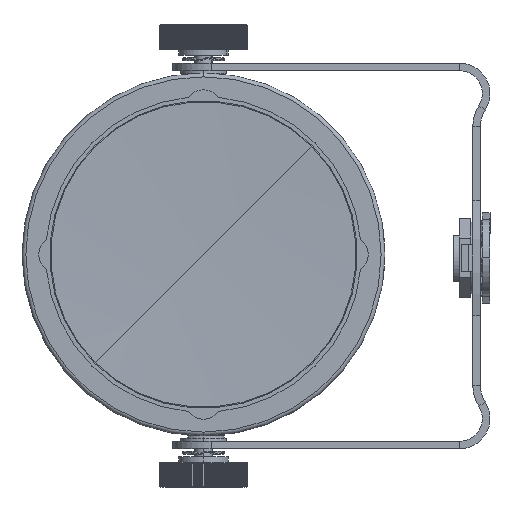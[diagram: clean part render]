
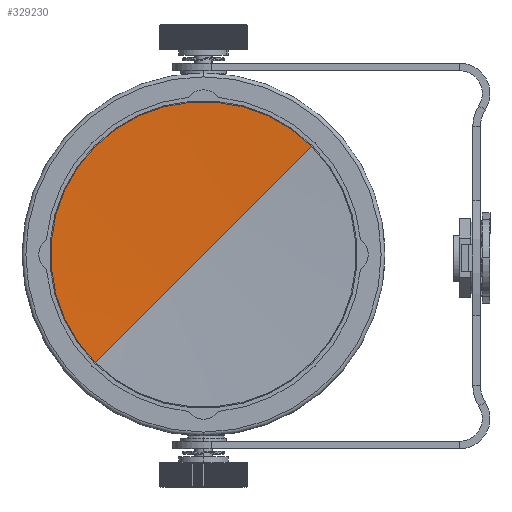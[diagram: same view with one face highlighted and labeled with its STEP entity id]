
A CAD part, left-side view. The second image highlights one B-rep face of the part: STEP entity #329230.
In plain terms, the highlighted spherical face has radius 1000 mm.
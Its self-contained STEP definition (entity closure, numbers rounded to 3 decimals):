
#2247 = CARTESIAN_POINT ( 'NONE',  ( 0., 0., 40. ) ) ;
#3554 = ORIENTED_EDGE ( 'NONE', *, *, #286422, .F. ) ;
#4528 = DIRECTION ( 'NONE',  ( 0., 1., 0. ) ) ;
#30416 = VERTEX_POINT ( 'NONE', #46099 ) ;
#31880 = VERTEX_POINT ( 'NONE', #303824 ) ;
#44462 = EDGE_LOOP ( 'NONE', ( #3554, #47666, #323709 ) ) ;
#46099 = CARTESIAN_POINT ( 'NONE',  ( 0.8, 0., 0. ) ) ;
#47666 = ORIENTED_EDGE ( 'NONE', *, *, #135412, .T. ) ;
#74415 = CARTESIAN_POINT ( 'NONE',  ( -999.2, 0., 0. ) ) ;
#76145 = AXIS2_PLACEMENT_3D ( 'NONE', #95492, #177127, #98894 ) ;
#76389 = VERTEX_POINT ( 'NONE', #2247 ) ;
#88589 = FACE_OUTER_BOUND ( 'NONE', #44462, .T. ) ;
#95492 = CARTESIAN_POINT ( 'NONE',  ( -999.2, 0., 0. ) ) ;
#98894 = DIRECTION ( 'NONE',  ( 0., 0., -1. ) ) ;
#100860 = DIRECTION ( 'NONE',  ( 0., 0., -1. ) ) ;
#117871 = EDGE_CURVE ( 'NONE', #76389, #31880, #171665, .T. ) ;
#135412 = EDGE_CURVE ( 'NONE', #30416, #76389, #163697, .T. ) ;
#150050 = CIRCLE ( 'NONE', #214031, 1000. ) ;
#155677 = DIRECTION ( 'NONE',  ( -1., 0., 0. ) ) ;
#162070 = CARTESIAN_POINT ( 'NONE',  ( -999.2, 0., 0. ) ) ;
#163697 = CIRCLE ( 'NONE', #276595, 1000. ) ;
#171665 = CIRCLE ( 'NONE', #180585, 40. ) ;
#177127 = DIRECTION ( 'NONE',  ( 0., -1., 0. ) ) ;
#180585 = AXIS2_PLACEMENT_3D ( 'NONE', #313323, #155677, #339726 ) ;
#188582 = DIRECTION ( 'NONE',  ( 0., 0., 1. ) ) ;
#214031 = AXIS2_PLACEMENT_3D ( 'NONE', #162070, #4528, #188582 ) ;
#258533 = DIRECTION ( 'NONE',  ( 0., -1., 0. ) ) ;
#276595 = AXIS2_PLACEMENT_3D ( 'NONE', #74415, #258533, #100860 ) ;
#286422 = EDGE_CURVE ( 'NONE', #30416, #31880, #150050, .T. ) ;
#290180 = SPHERICAL_SURFACE ( 'NONE', #76145, 1000. ) ;
#303824 = CARTESIAN_POINT ( 'NONE',  ( 0., 0., -40. ) ) ;
#313323 = CARTESIAN_POINT ( 'NONE',  ( 0., 0., 0. ) ) ;
#323709 = ORIENTED_EDGE ( 'NONE', *, *, #117871, .T. ) ;
#329230 = ADVANCED_FACE ( 'NONE', ( #88589 ), #290180, .F. ) ;
#339726 = DIRECTION ( 'NONE',  ( 0., 0., 1. ) ) ;
